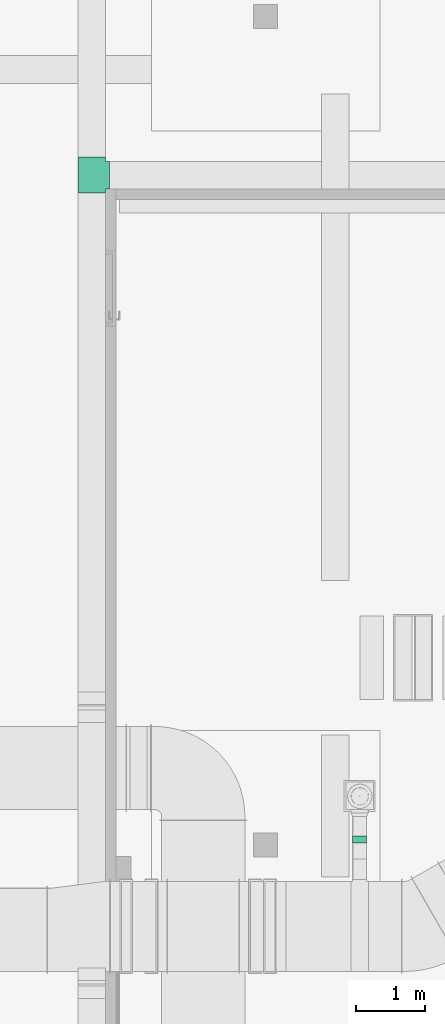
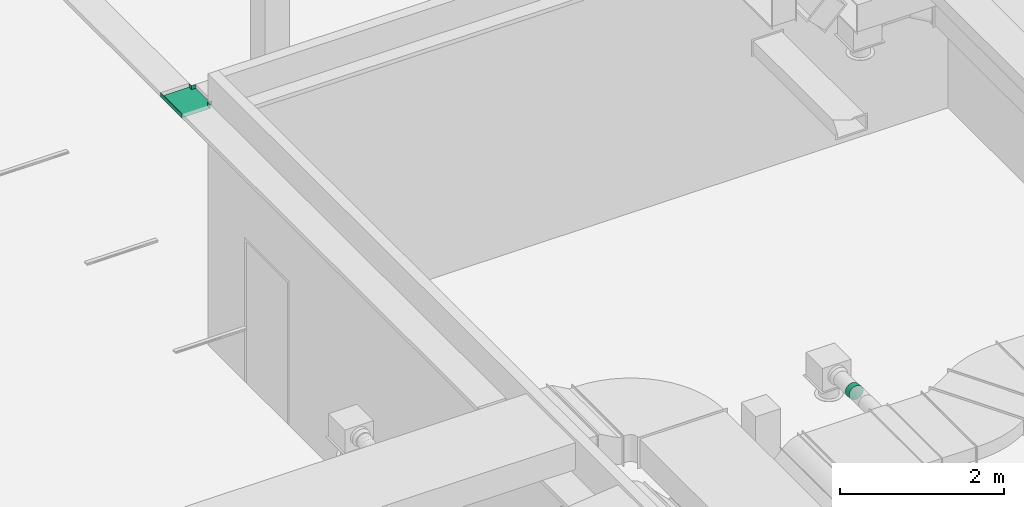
# One storey, part 288 of 302: 2 flow fittings.
"""IFC2X3 building model written with IfcOpenShell, lengths in metres."""

from ifc_helpers import new_model, entity, si_unit, converted_unit, derived_unit, direction, frame, origin, place, context, subcontext, project, spatial, faceted_brep, source, transform, mapped, material, type_object, type_shapes, element, save


model = new_model("IFC2X3")

# Units and contexts
model_context = context("Model", 3, precision=1e-05, world=origin(), true_north=direction((6.12303176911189e-17, 1.0)))
body_context = subcontext(model_context, "Body", "Model", "MODEL_VIEW")
ifc_project = project(units=[si_unit("LENGTHUNIT", "METRE"), si_unit("AREAUNIT", "SQUARE_METRE"), si_unit("VOLUMEUNIT", "CUBIC_METRE"), converted_unit("PLANEANGLEUNIT", "DEGREE", entity("IfcRatioMeasure", 0.0174532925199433), si_unit("PLANEANGLEUNIT", "RADIAN"), dimensions=[0, 0, 0, 0, 0, 0, 0]), si_unit("MASSUNIT", "GRAM", prefix="KILO"), derived_unit("MASSDENSITYUNIT", [(si_unit("MASSUNIT", "GRAM", prefix="KILO"), 1), (si_unit("LENGTHUNIT", "METRE"), -3)]), derived_unit("MOMENTOFINERTIAUNIT", [(si_unit("LENGTHUNIT", "METRE"), 4)]), si_unit("TIMEUNIT", "SECOND"), si_unit("FREQUENCYUNIT", "HERTZ"), si_unit("THERMODYNAMICTEMPERATUREUNIT", "DEGREE_CELSIUS"), derived_unit("THERMALTRANSMITTANCEUNIT", [(si_unit("MASSUNIT", "GRAM", prefix="KILO"), 1), (si_unit("THERMODYNAMICTEMPERATUREUNIT", "KELVIN"), -1), (si_unit("TIMEUNIT", "SECOND"), -3)]), derived_unit("VOLUMETRICFLOWRATEUNIT", [(si_unit("LENGTHUNIT", "METRE"), 3), (si_unit("TIMEUNIT", "SECOND"), -1)]), si_unit("ELECTRICCURRENTUNIT", "AMPERE"), si_unit("ELECTRICVOLTAGEUNIT", "VOLT"), si_unit("POWERUNIT", "WATT"), si_unit("FORCEUNIT", "NEWTON", prefix="KILO"), si_unit("ILLUMINANCEUNIT", "LUX"), si_unit("LUMINOUSFLUXUNIT", "LUMEN"), si_unit("LUMINOUSINTENSITYUNIT", "CANDELA"), derived_unit("USERDEFINED", [(si_unit("MASSUNIT", "GRAM", prefix="KILO"), -1), (si_unit("LENGTHUNIT", "METRE"), -2), (si_unit("TIMEUNIT", "SECOND"), 3), (si_unit("LUMINOUSFLUXUNIT", "LUMEN"), 1)]), derived_unit("LINEARVELOCITYUNIT", [(si_unit("LENGTHUNIT", "METRE"), 1), (si_unit("TIMEUNIT", "SECOND"), -1)]), si_unit("PRESSUREUNIT", "PASCAL"), derived_unit("USERDEFINED", [(si_unit("LENGTHUNIT", "METRE"), -2), (si_unit("MASSUNIT", "GRAM", prefix="KILO"), 1), (si_unit("TIMEUNIT", "SECOND"), -2)]), derived_unit("LINEARFORCEUNIT", [(si_unit("MASSUNIT", "GRAM", prefix="KILO"), 1), (si_unit("LENGTHUNIT", "METRE"), 1), (si_unit("TIMEUNIT", "SECOND"), -2), (si_unit("LENGTHUNIT", "METRE"), -1)]), derived_unit("PLANARFORCEUNIT", [(si_unit("MASSUNIT", "GRAM", prefix="KILO"), 1), (si_unit("LENGTHUNIT", "METRE"), 1), (si_unit("TIMEUNIT", "SECOND"), -2), (si_unit("LENGTHUNIT", "METRE"), -2)])], contexts=[model_context])

# Site, building, storey
site_placement = place(None, origin())
site = spatial("IfcSite", under=ifc_project, at=site_placement, Name="Default", CompositionType="ELEMENT")
building_placement = place(site_placement, origin())
building = spatial("IfcBuilding", under=site, at=building_placement, CompositionType="ELEMENT")
storey_placement = place(building_placement, frame((0.0, 0.0, -1.3)))
storey = spatial("IfcBuildingStorey", under=building, at=storey_placement, Name="00_EG", CompositionType="ELEMENT", Elevation=-1.3)

# Flow fittings
ifc_material = material(Name="<Unnamed>")
cable_carrier_fitting_type = type_object("IfcCableCarrierFittingType", Name="Kabeltrasse - T-Stück:Standard", PredefinedType="NOTDEFINED", material=ifc_material)
shared_shape_1 = source(origin(), body_context, "Body", "Brep", [
    faceted_brep([(0.260000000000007, 0.199999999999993, 0.0299999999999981), (-0.259999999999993, 0.199999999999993, 0.0299999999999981), (-0.259999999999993, 0.197460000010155, 0.0299999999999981), (0.260000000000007, 0.197460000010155, 0.0299999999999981), (-0.199999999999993, -0.260000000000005, -0.0300000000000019), (-0.199999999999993, -0.200000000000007, -0.0300000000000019), (-0.259999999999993, -0.200000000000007, -0.0300000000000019), (-0.259999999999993, 0.199999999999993, -0.0300000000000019), (0.260000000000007, 0.199999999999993, -0.0300000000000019), (0.260000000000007, -0.200000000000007, -0.0300000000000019), (0.200000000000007, -0.200000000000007, -0.0300000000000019), (0.200000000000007, -0.260000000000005, -0.0300000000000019), (-0.199999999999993, -0.260000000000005, 0.0299999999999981), (-0.199999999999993, -0.200000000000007, 0.0299999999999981), (-0.199999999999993, -0.200000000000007, -0.0274600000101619), (-0.197460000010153, -0.260000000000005, 0.0299999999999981), (0.200000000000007, -0.260000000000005, 0.0299999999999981), (0.197460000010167, -0.260000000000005, 0.0299999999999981), (0.197460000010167, -0.260000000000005, -0.0274600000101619), (-0.197460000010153, -0.260000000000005, -0.0274600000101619), (-0.197460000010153, -0.197460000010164, 0.0299999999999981), (-0.197460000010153, -0.197460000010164, -0.0274600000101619), (-0.259999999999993, -0.197460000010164, 0.0299999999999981), (-0.259999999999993, -0.197460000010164, -0.0274600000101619), (-0.259999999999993, -0.200000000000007, 0.0299999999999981), (-0.259999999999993, 0.197460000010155, -0.0274600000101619), (0.260000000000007, -0.200000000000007, 0.0299999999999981), (0.200000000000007, -0.200000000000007, 0.0299999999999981), (0.200000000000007, -0.200000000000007, -0.0274600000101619), (0.260000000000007, -0.197460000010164, 0.0299999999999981), (0.260000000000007, 0.197460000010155, -0.0274600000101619), (0.260000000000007, -0.197460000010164, -0.0274600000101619), (0.197460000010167, -0.197460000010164, 0.0299999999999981), (0.197460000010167, -0.197460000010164, -0.0274600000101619)], [[[0, 1, 2, 3]], [[4, 5, 6, 7, 8, 9, 10, 11]], [[4, 12, 13, 14, 5]], [[15, 12, 4, 11, 16, 17, 18, 19]], [[20, 15, 19, 21]], [[22, 20, 21, 23]], [[24, 22, 23, 25, 2, 1, 7, 6]], [[13, 24, 6, 5, 14]], [[9, 26, 27, 28, 10]], [[29, 26, 9, 8, 0, 3, 30, 31]], [[32, 29, 31, 33]], [[17, 32, 33, 18]], [[27, 16, 11, 10, 28]], [[7, 1, 0, 8]], [[3, 2, 25, 30]], [[19, 18, 33, 31, 30, 25, 23, 21]], [[26, 29, 32, 17, 16, 27]], [[20, 22, 24, 13, 12, 15]]]),
])
type_shapes(cable_carrier_fitting_type, [shared_shape_1])
flow_fitting_1_placement = place(storey_placement, frame((-220.085111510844, 33.1190889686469, 4.85), z_axis=(0.0, 0.0, 1.0), x_axis=(0.0, 1.0, 0.0)))
element("IfcFlowFitting", 1, at=flow_fitting_1_placement, inside=storey, type_object=cable_carrier_fitting_type, material=ifc_material, Name="Kabeltrasse - T-Stück:Standard", ObjectType="Kabeltrasse - T-Stück:Standard", context=body_context, shape_type="MappedRepresentation", body=[
    mapped(shared_shape_1, transform((0.0, 0.0, 0.0), scale=1.0)),
])
duct_fitting_type = type_object("IfcDuctFittingType", Name="STR_RND_Transition:STR_Transition_RND_GS_EA", PredefinedType="NOTDEFINED", material=ifc_material)
shared_shape_2 = source(origin(), body_context, "Body", "Brep", [
    faceted_brep([(0.100000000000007, -0.0587785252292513, -0.0659016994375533), (0.100000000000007, -0.030901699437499, -0.0801056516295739), (0.100000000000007, 0.0, -0.0850000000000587), (0.100000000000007, 0.0309016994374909, -0.0801056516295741), (0.100000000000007, 0.0587785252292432, -0.0659016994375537), (0.100000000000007, 0.0809016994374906, -0.0437785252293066), (0.100000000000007, 0.0951056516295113, -0.0159016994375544), (0.100000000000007, 0.0999999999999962, 0.0149999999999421), (0.100000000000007, 0.0951056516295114, 0.0459016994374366), (0.100000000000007, 0.0809016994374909, 0.0737785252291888), (0.100000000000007, 0.0587785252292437, 0.095901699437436), (0.100000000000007, 0.0309016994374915, 0.110105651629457), (0.100000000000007, 0.0, 0.114999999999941), (0.100000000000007, -0.0309016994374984, 0.110105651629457), (0.100000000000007, -0.0587785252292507, 0.0959016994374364), (0.100000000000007, -0.0809016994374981, 0.0737785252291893), (0.100000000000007, -0.0951056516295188, 0.0459016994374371), (0.100000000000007, -0.100000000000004, 0.0149999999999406), (0.100000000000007, -0.095105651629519, -0.0159016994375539), (0.100000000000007, -0.0809016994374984, -0.0437785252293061), (0.0, 0.0, -0.100000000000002), (0.0, -0.030901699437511, -0.0951056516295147), (0.0, -0.0587785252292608, -0.0809016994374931), (0.0, -0.0809016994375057, -0.0587785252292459), (0.0, -0.0951056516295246, -0.0309016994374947), (0.0, -0.100000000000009, 0.0), (0.0, -0.0951056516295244, 0.0309016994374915), (0.0, -0.0809016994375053, 0.0587785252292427), (0.0, -0.0587785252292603, 0.0809016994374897), (0.0, -0.0309016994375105, 0.0951056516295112), (0.0, 0.0, 0.0999999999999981), (0.0, 0.030901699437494, 0.095105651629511), (0.0, 0.0587785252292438, 0.0809016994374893), (0.0, 0.0809016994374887, 0.0587785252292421), (0.0, 0.0951056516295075, 0.0309016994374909), (0.0, 0.0999999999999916, 0.0), (0.0, 0.0951056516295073, -0.0309016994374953), (0.0, 0.0809016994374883, -0.0587785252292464), (0.0, 0.0587785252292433, -0.0809016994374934), (0.0, 0.0309016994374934, -0.0951056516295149), (0.0499999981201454, 0.0891006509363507, 0.0528990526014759), (0.0499999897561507, 0.0962968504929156, 0.0344613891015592), (0.050000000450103, 0.0707106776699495, 0.078210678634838), (0.062318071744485, 0.0999999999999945, 0.00934771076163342), (0.0376819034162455, 0.0999999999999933, 0.00565228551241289), (0.0499999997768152, 0.0453990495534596, 0.0966006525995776), (0.0500000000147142, 0.0269613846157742, 0.103796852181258), (0.0376819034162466, 0.0, 0.105652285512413), (0.062318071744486, 0.0, 0.109347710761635), (0.0499999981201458, -0.0453990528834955, 0.0966006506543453), (0.0499999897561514, -0.0269613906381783, 0.103796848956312), (0.050000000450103, -0.0707106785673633, 0.0782106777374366), (0.0499999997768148, -0.0891006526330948, 0.0528990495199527), (0.0500000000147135, -0.0962968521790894, 0.0344613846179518), (0.0376819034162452, -0.100000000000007, 0.00565228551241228), (0.062318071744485, -0.100000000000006, 0.00934771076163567), (0.0499999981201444, -0.089100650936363, -0.0378990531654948), (0.0499999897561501, -0.0962968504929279, -0.0194613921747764), (0.0500000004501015, -0.0707106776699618, -0.0632106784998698), (0.0499999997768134, -0.0453990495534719, -0.0816006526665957), (0.0500000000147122, -0.0269613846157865, -0.0887968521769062), (0.0376819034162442, 0.0, -0.0943477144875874), (0.062318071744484, 0.0, -0.0906522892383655), (0.049999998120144, 0.0453990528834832, -0.0816006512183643), (0.0499999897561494, 0.026961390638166, -0.0887968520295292), (0.0500000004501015, 0.070710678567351, -0.0632106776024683), (0.0499999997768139, 0.0891006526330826, -0.0378990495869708), (0.050000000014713, 0.0962968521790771, -0.0194613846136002)], [[[0, 1, 2, 3, 4, 5, 6, 7, 8, 9, 10, 11, 12, 13, 14, 15, 16, 17, 18, 19]], [[20, 21, 22, 23, 24, 25, 26, 27, 28, 29, 30, 31, 32, 33, 34, 35, 36, 37, 38, 39]], [[8, 40, 9]], [[34, 41, 35]], [[34, 33, 40]], [[41, 40, 8]], [[42, 40, 33]], [[40, 41, 34]], [[41, 7, 43, 44, 35]], [[33, 32, 42]], [[9, 40, 42]], [[45, 42, 32]], [[45, 32, 31]], [[30, 46, 31]], [[12, 11, 46]], [[10, 42, 45]], [[7, 41, 8]], [[46, 11, 45]], [[10, 45, 11]], [[46, 30, 47, 48, 12]], [[10, 9, 42]], [[45, 31, 46]], [[13, 49, 14]], [[29, 50, 30]], [[29, 28, 49]], [[50, 49, 13]], [[51, 49, 28]], [[49, 50, 29]], [[50, 12, 48, 47, 30]], [[28, 27, 51]], [[14, 49, 51]], [[52, 51, 27]], [[52, 27, 26]], [[25, 53, 26]], [[17, 16, 53]], [[15, 51, 52]], [[12, 50, 13]], [[53, 16, 52]], [[15, 52, 16]], [[53, 25, 54, 55, 17]], [[15, 14, 51]], [[52, 26, 53]], [[18, 56, 19]], [[24, 57, 25]], [[24, 23, 56]], [[57, 56, 18]], [[58, 56, 23]], [[56, 57, 24]], [[57, 17, 55, 54, 25]], [[23, 22, 58]], [[19, 56, 58]], [[59, 58, 22]], [[59, 22, 21]], [[20, 60, 21]], [[2, 1, 60]], [[0, 58, 59]], [[17, 57, 18]], [[60, 1, 59]], [[0, 59, 1]], [[60, 20, 61, 62, 2]], [[0, 19, 58]], [[59, 21, 60]], [[3, 63, 4]], [[39, 64, 20]], [[39, 38, 63]], [[64, 63, 3]], [[65, 63, 38]], [[63, 64, 39]], [[64, 2, 62, 61, 20]], [[38, 37, 65]], [[4, 63, 65]], [[66, 65, 37]], [[66, 37, 36]], [[35, 67, 36]], [[7, 6, 67]], [[5, 65, 66]], [[2, 64, 3]], [[67, 6, 66]], [[5, 66, 6]], [[67, 35, 44, 43, 7]], [[5, 4, 65]], [[66, 36, 67]]]),
])
type_shapes(duct_fitting_type, [shared_shape_2])
flow_fitting_2_placement = place(storey_placement, frame((-216.214864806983, 23.5775453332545, 4.98500000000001), z_axis=(0.0, 0.0, 1.0), x_axis=(0.0, -1.0, 0.0)))
element("IfcFlowFitting", 2, at=flow_fitting_2_placement, inside=storey, type_object=duct_fitting_type, material=ifc_material, Name="STR_RND_Transition:STR_Transition_RND_GS_EA", ObjectType="STR_RND_Transition:STR_Transition_RND_GS_EA", context=body_context, shape_type="MappedRepresentation", body=[
    mapped(shared_shape_2, transform((0.0, 0.0, 0.0), scale=1.0)),
])

save(model, "model.ifc")
